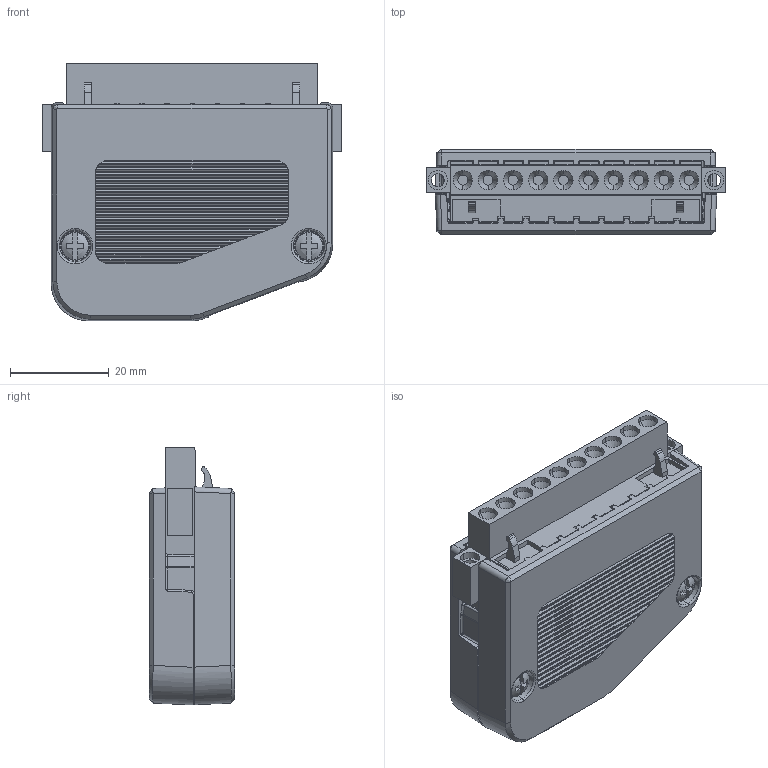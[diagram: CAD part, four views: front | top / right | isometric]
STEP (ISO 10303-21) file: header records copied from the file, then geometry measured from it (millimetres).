
FILE_DESCRIPTION((''),'2;1');
FILE_NAME('CU_NI-9927','2014-11-03T',('dkendric'),(''),'PRO/ENGINEER BY PARAMETRIC TECHNOLOGY CORPORATION, 2014000','PRO/ENGINEER BY PARAMETRIC TECHNOLOGY CORPORATION, 2014000','');
FILE_SCHEMA(('CONFIG_CONTROL_DESIGN'));
Products named in the file (1): CU_NI-9927
Bounding box: 60.6 x 17.27 x 52.09 mm (x, y, z)
Volume: 14733.6 mm3; surface area: 21144.7 mm2
Topology: 3 solids, 6 shells, 2208 faces, 5365 edges, 3237 vertices
Faces by surface type: plane 1013, cylinder 634, bspline 305, sphere 91, cone 86, torus 79
Entity records: 75644 total; most frequent: CARTESIAN_POINT 26436, ORIENTED_EDGE 10649, DIRECTION 9430, EDGE_CURVE 5361, VECTOR 3296, LINE 3296, VERTEX_POINT 3237, AXIS2_PLACEMENT_3D 3067
